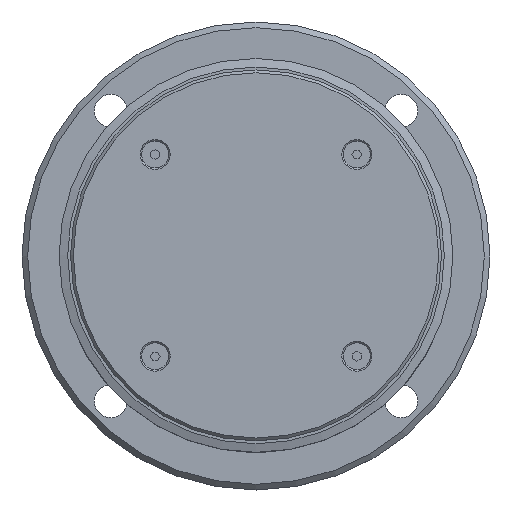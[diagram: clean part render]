
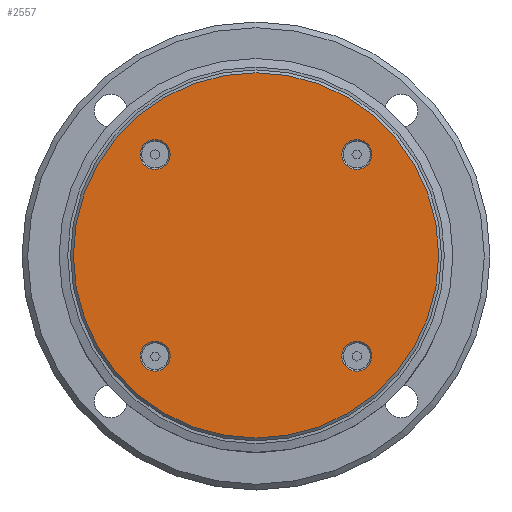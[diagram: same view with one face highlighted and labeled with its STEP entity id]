
A CAD part, top view. The second image highlights one B-rep face of the part: STEP entity #2557.
In plain terms, the highlighted planar face has unit normal (0, 0, 1).
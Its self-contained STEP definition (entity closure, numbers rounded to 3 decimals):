
#470=PLANE('',#2863);
#583=FACE_BOUND('',#1182,.T.);
#584=FACE_BOUND('',#1183,.T.);
#585=FACE_BOUND('',#1184,.T.);
#586=FACE_BOUND('',#1185,.T.);
#616=CIRCLE('',#2656,5.25);
#620=CIRCLE('',#2671,5.25);
#624=CIRCLE('',#2686,5.25);
#628=CIRCLE('',#2701,5.25);
#711=CIRCLE('',#2862,64.);
#890=FACE_OUTER_BOUND('',#1181,.T.);
#1181=EDGE_LOOP('',(#2320));
#1182=EDGE_LOOP('',(#2321));
#1183=EDGE_LOOP('',(#2322));
#1184=EDGE_LOOP('',(#2323));
#1185=EDGE_LOOP('',(#2324));
#1298=VERTEX_POINT('',#4191);
#1314=VERTEX_POINT('',#4240);
#1330=VERTEX_POINT('',#4289);
#1346=VERTEX_POINT('',#4338);
#1431=VERTEX_POINT('',#4713);
#1558=EDGE_CURVE('',#1298,#1298,#616,.T.);
#1580=EDGE_CURVE('',#1314,#1314,#620,.T.);
#1602=EDGE_CURVE('',#1330,#1330,#624,.T.);
#1624=EDGE_CURVE('',#1346,#1346,#628,.T.);
#1731=EDGE_CURVE('',#1431,#1431,#711,.T.);
#2320=ORIENTED_EDGE('',*,*,#1731,.T.);
#2321=ORIENTED_EDGE('',*,*,#1558,.T.);
#2322=ORIENTED_EDGE('',*,*,#1580,.T.);
#2323=ORIENTED_EDGE('',*,*,#1602,.T.);
#2324=ORIENTED_EDGE('',*,*,#1624,.T.);
#2557=ADVANCED_FACE('',(#890,#583,#584,#585,#586),#470,.T.);
#2656=AXIS2_PLACEMENT_3D('',#4192,#3147,#3148);
#2671=AXIS2_PLACEMENT_3D('',#4241,#3195,#3196);
#2686=AXIS2_PLACEMENT_3D('',#4290,#3243,#3244);
#2701=AXIS2_PLACEMENT_3D('',#4339,#3291,#3292);
#2862=AXIS2_PLACEMENT_3D('',#4714,#3631,#3632);
#2863=AXIS2_PLACEMENT_3D('',#4715,#3633,#3634);
#3147=DIRECTION('center_axis',(0.,0.,-1.));
#3148=DIRECTION('ref_axis',(-0.707,0.707,0.));
#3195=DIRECTION('center_axis',(0.,0.,-1.));
#3196=DIRECTION('ref_axis',(0.707,0.707,0.));
#3243=DIRECTION('center_axis',(0.,0.,-1.));
#3244=DIRECTION('ref_axis',(0.707,-0.707,0.));
#3291=DIRECTION('center_axis',(0.,0.,-1.));
#3292=DIRECTION('ref_axis',(-0.707,-0.707,0.));
#3631=DIRECTION('center_axis',(0.,0.,1.));
#3632=DIRECTION('ref_axis',(1.,0.,0.));
#3633=DIRECTION('center_axis',(0.,0.,1.));
#3634=DIRECTION('ref_axis',(1.,0.,0.));
#4191=CARTESIAN_POINT('',(-39.068,39.068,125.));
#4192=CARTESIAN_POINT('Origin',(-35.355,35.355,125.));
#4240=CARTESIAN_POINT('',(39.068,39.068,125.));
#4241=CARTESIAN_POINT('Origin',(35.355,35.355,125.));
#4289=CARTESIAN_POINT('',(39.068,-39.068,125.));
#4290=CARTESIAN_POINT('Origin',(35.355,-35.355,125.));
#4338=CARTESIAN_POINT('',(-39.068,-39.068,125.));
#4339=CARTESIAN_POINT('Origin',(-35.355,-35.355,125.));
#4713=CARTESIAN_POINT('',(0.,-64.,125.));
#4714=CARTESIAN_POINT('Origin',(0.,0.,125.));
#4715=CARTESIAN_POINT('Origin',(0.,0.,125.));
